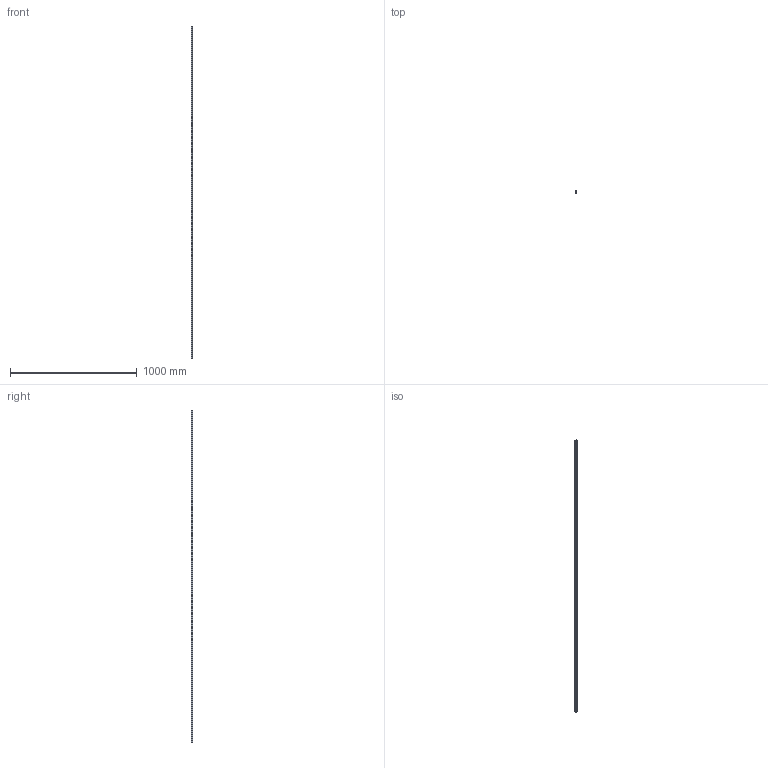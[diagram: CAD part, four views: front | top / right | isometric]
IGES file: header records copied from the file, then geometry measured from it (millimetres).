
Start section: SolidWorks IGES file using analytic representation for surfaces
Global section: file name: C:\Users\IanO\Desktop\L1016_v2\L1016.BL15_v2\L1016.BL15_v2_20190611_IGES\L1016.BL15-2620.igs; native system: SolidWorks 2017; preprocessor: SolidWorks 2017; author: IanO; date: 190612.123302; units: millimetre
Bounding box: 15 x 13 x 2620 mm (x, y, z)
Surface area: 160061.5 mm2 (no closed solid volume)
Topology: 0 solids, 0 shells, 246 faces, 6488 edges, 6488 vertices
Faces by surface type: revolution 180, bspline 66
